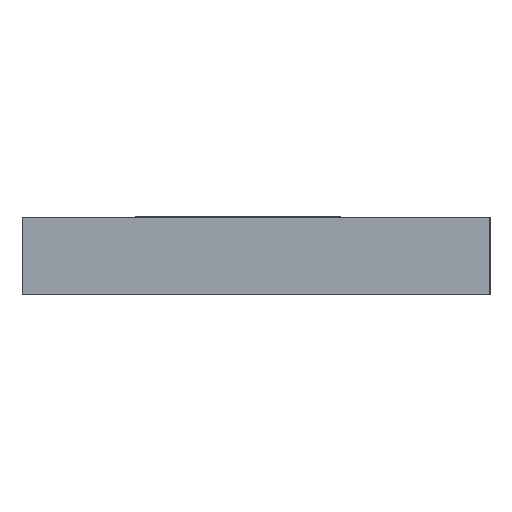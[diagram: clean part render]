
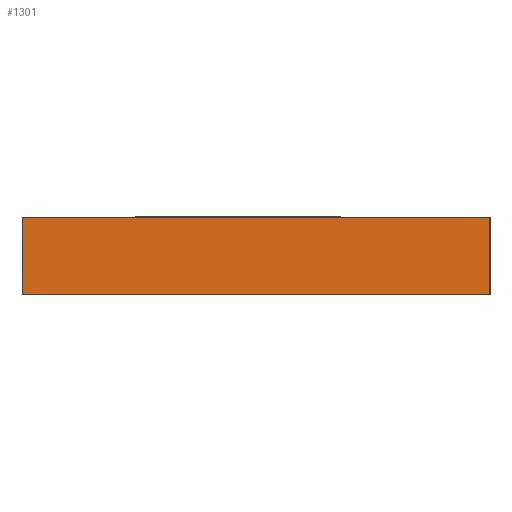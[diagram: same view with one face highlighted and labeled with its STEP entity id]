
A CAD part, left-side view. The second image highlights one B-rep face of the part: STEP entity #1301.
In plain terms, the highlighted planar face has unit normal (-1, 0, 0).
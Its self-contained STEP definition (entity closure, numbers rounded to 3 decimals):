
#10 = CARTESIAN_POINT ( 'NONE',  ( -30., -30., 10. ) ) ;
#14 = DIRECTION ( 'NONE',  ( 0., 0., -1. ) ) ;
#55 = CARTESIAN_POINT ( 'NONE',  ( -30., 30., 0. ) ) ;
#58 = DIRECTION ( 'NONE',  ( 0., -1., 0. ) ) ;
#673 = CARTESIAN_POINT ( 'NONE',  ( -30., 30., 10. ) ) ;
#675 = DIRECTION ( 'NONE',  ( 0., 0., -1. ) ) ;
#692 = VERTEX_POINT ( 'NONE', #2147 ) ;
#698 = VERTEX_POINT ( 'NONE', #2167 ) ;
#701 = VERTEX_POINT ( 'NONE', #2173 ) ;
#717 = VERTEX_POINT ( 'NONE', #2168 ) ;
#846 = FACE_OUTER_BOUND ( 'NONE', #4145, .T. ) ;
#1006 = LINE ( 'NONE', #3684, #1009 ) ;
#1009 = VECTOR ( 'NONE', #3666, 1000. ) ;
#1060 = LINE ( 'NONE', #10, #1086 ) ;
#1061 = LINE ( 'NONE', #673, #1066 ) ;
#1066 = VECTOR ( 'NONE', #675, 1000. ) ;
#1086 = VECTOR ( 'NONE', #14, 1000. ) ;
#1101 = VECTOR ( 'NONE', #58, 1000. ) ;
#1103 = LINE ( 'NONE', #55, #1101 ) ;
#1301 = ADVANCED_FACE ( 'NONE', ( #846 ), #1890, .F. ) ;
#1528 = ORIENTED_EDGE ( 'NONE', *, *, #2963, .T. ) ;
#1529 = ORIENTED_EDGE ( 'NONE', *, *, #2812, .F. ) ;
#1530 = ORIENTED_EDGE ( 'NONE', *, *, #2944, .T. ) ;
#1532 = ORIENTED_EDGE ( 'NONE', *, *, #2951, .F. ) ;
#1864 = CARTESIAN_POINT ( 'NONE',  ( -30., 30., 10. ) ) ;
#1878 = DIRECTION ( 'NONE',  ( 1., 0., 0. ) ) ;
#1890 = PLANE ( 'NONE',  #2843 ) ;
#1894 = DIRECTION ( 'NONE',  ( 0., 1., 0. ) ) ;
#2147 = CARTESIAN_POINT ( 'NONE',  ( -30., -30., 10. ) ) ;
#2167 = CARTESIAN_POINT ( 'NONE',  ( -30., 30., 0. ) ) ;
#2168 = CARTESIAN_POINT ( 'NONE',  ( -30., 30., 10. ) ) ;
#2173 = CARTESIAN_POINT ( 'NONE',  ( -30., -30., 0. ) ) ;
#2812 = EDGE_CURVE ( 'NONE', #717, #692, #1006, .T. ) ;
#2843 = AXIS2_PLACEMENT_3D ( 'NONE', #1864, #1878, #1894 ) ;
#2944 = EDGE_CURVE ( 'NONE', #717, #698, #1061, .T. ) ;
#2951 = EDGE_CURVE ( 'NONE', #692, #701, #1060, .T. ) ;
#2963 = EDGE_CURVE ( 'NONE', #698, #701, #1103, .T. ) ;
#3666 = DIRECTION ( 'NONE',  ( 0., -1., 0. ) ) ;
#3684 = CARTESIAN_POINT ( 'NONE',  ( -30., 30., 10. ) ) ;
#4145 = EDGE_LOOP ( 'NONE', ( #1528, #1532, #1529, #1530 ) ) ;
